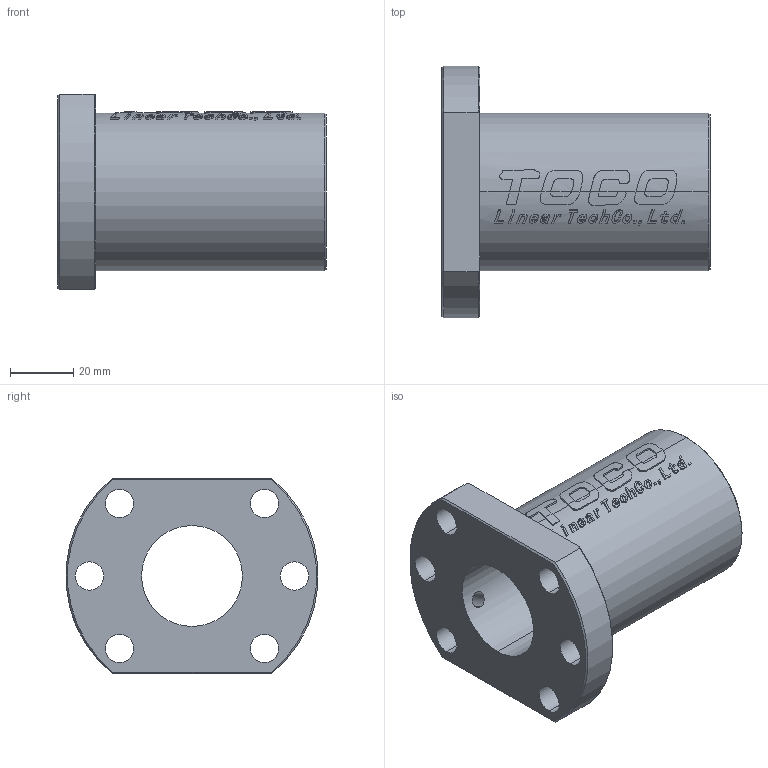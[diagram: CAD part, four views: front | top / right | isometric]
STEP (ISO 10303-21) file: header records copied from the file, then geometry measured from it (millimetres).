
FILE_DESCRIPTION (( 'STEP AP214' ), '1' );
FILE_NAME ('7.3101 STNUR3210T4D.STEP', '2026-03-03T11:14:11', ( '' ), ( '' ), 'SwSTEP 2.0', 'SolidWorks 2025', '' );
FILE_SCHEMA (( 'AUTOMOTIVE_DESIGN' ));
Length unit declared in the file: millimetre
Products named in the file (1): 7.3101 STNUR3210T4D
Bounding box: 85 x 79.74 x 62 mm (x, y, z)
Volume: 123194.1 mm3; surface area: 31851.7 mm2
Topology: 1 solids, 1 shells, 575 faces, 1636 edges, 1088 vertices
Faces by surface type: bspline 425, plane 86, cylinder 58, cone 6
Entity records: 30425 total; most frequent: CARTESIAN_POINT 18393, ORIENTED_EDGE 3272, EDGE_CURVE 1636, DIRECTION 1101, VERTEX_POINT 1088, B_SPLINE_CURVE_WITH_KNOTS 897, LINE 679, VECTOR 679
